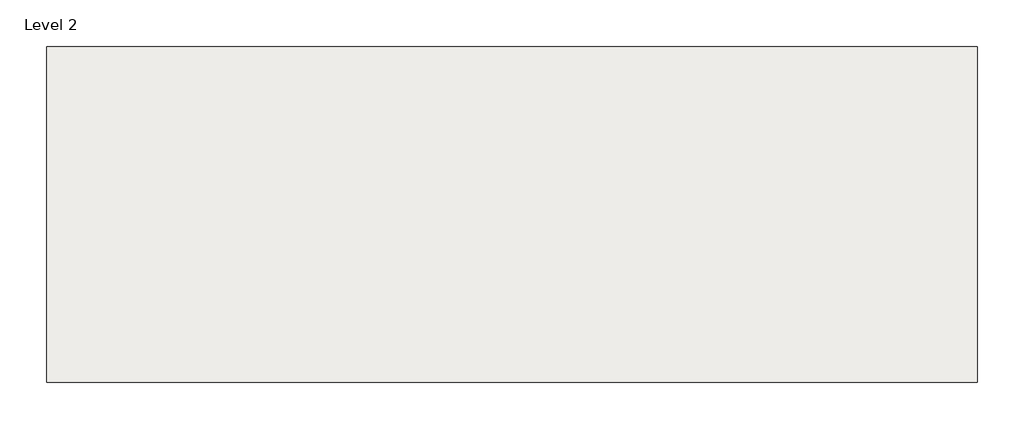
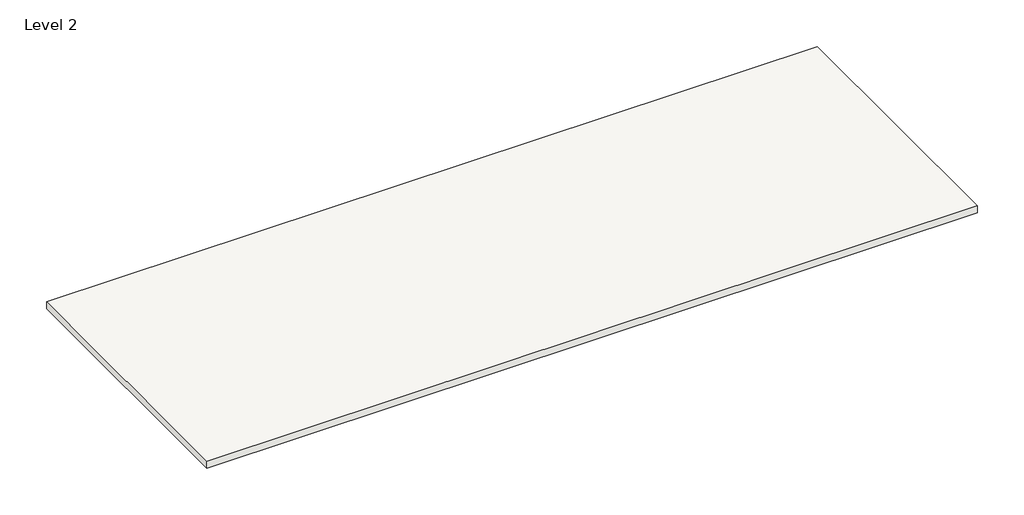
# One storey: 15 light fixtures, 1 covering.
"""IFC4 building model written with IfcOpenShell, lengths in millimetres."""

from ifc_helpers import new_model, si_unit, origin, place, context, project, spatial, faceted_brep, transform, mapped, element, save
from components import light_fixture_525445fe, light_fixture_11667dc2, light_fixture_d758fedb, light_fixture_8b8c7958, light_fixture_a5de5f7d, light_fixture_a56094d9

model = new_model("IFC4")

# Units and contexts
model_context = context("Model", 3, world=origin())
ifc_project = project(units=[si_unit("LENGTHUNIT", "METRE", prefix="MILLI")], contexts=[model_context])

# Site, building, storey
site = spatial("IfcSite", under=ifc_project)
building = spatial("IfcBuilding", under=site)
storey = spatial("IfcBuildingStorey", under=building, Name="Level 2", Elevation=2540.0)

# Covering
placement = place(None, origin())
element("IfcCovering", 1, ObjectType="Ceiling", at=placement, inside=storey, context=model_context, shape_type="Brep", body=[
    faceted_brep([(5009.1339559, 3052.7882687, 2667.0), (-8097.2660441, 3052.7882687, 2667.0), (-8097.2660441, -1671.6117313, 2667.0), (5009.1339559, -1671.6117313, 2667.0), (-8097.2660441, 3052.7882687, 2540.0), (5009.1339559, 3052.7882687, 2540.0), (5009.1339559, -1671.6117313, 2540.0), (-8097.2660441, -1671.6117313, 2540.0), (-7560.8398722, 2013.273425, 2540.0), (-6347.6922159, 2013.273425, 2540.0), (-6347.6922159, 2314.3031125, 2540.0), (-7560.8398722, 2314.3031125, 2540.0), (-7255.7422159, 338.3120969, 2540.0), (-6652.7898722, 338.3120969, 2540.0), (-6652.7898722, 941.2644406, 2540.0), (-7255.7422159, 941.2644406, 2540.0), (-7560.8398722, -1185.6879031, 2540.0), (-6347.6922159, -1185.6879031, 2540.0), (-6347.6922159, -582.7355594, 2540.0), (-7560.8398722, -582.7355594, 2540.0), (-5097.0398722, 2013.273425, 2540.0), (-3883.8922159, 2013.273425, 2540.0), (-3883.8922159, 2314.3031125, 2540.0), (-5097.0398722, 2314.3031125, 2540.0), (-4791.9422159, 338.3120969, 2540.0), (-4188.9898722, 338.3120969, 2540.0), (-4188.9898722, 941.2644406, 2540.0), (-4791.9422159, 941.2644406, 2540.0), (-5097.0398722, -1185.6879031, 2540.0), (-3883.8922159, -1185.6879031, 2540.0), (-3883.8922159, -582.7355594, 2540.0), (-5097.0398722, -582.7355594, 2540.0), (-2658.6398722, 2013.273425, 2540.0), (-1445.4922159, 2013.273425, 2540.0), (-1445.4922159, 2314.3031125, 2540.0), (-2658.6398722, 2314.3031125, 2540.0), (-2353.5422159, 338.3120969, 2540.0), (-1750.5898722, 338.3120969, 2540.0), (-1750.5898722, 941.2644406, 2540.0), (-2353.5422159, 941.2644406, 2540.0), (-2658.6398722, -1185.6879031, 2540.0), (-1445.4922159, -1185.6879031, 2540.0), (-1445.4922159, -582.7355594, 2540.0), (-2658.6398722, -582.7355594, 2540.0), (-220.2398722, 2013.273425, 2540.0), (992.9077841, 2013.273425, 2540.0), (992.9077841, 2314.3031125, 2540.0), (-220.2398722, 2314.3031125, 2540.0), (2522.9601278, 2013.273425, 2540.0), (3736.1077841, 2013.273425, 2540.0), (3736.1077841, 2314.3031125, 2540.0), (2522.9601278, 2314.3031125, 2540.0), (84.8577841, 338.3120969, 2540.0), (687.8101278, 338.3120969, 2540.0), (687.8101278, 941.2644406, 2540.0), (84.8577841, 941.2644406, 2540.0), (2828.0577841, 338.3120969, 2540.0), (3431.0101278, 338.3120969, 2540.0), (3431.0101278, 941.2644406, 2540.0), (2828.0577841, 941.2644406, 2540.0), (-220.2398722, -1185.6879031, 2540.0), (992.9077841, -1185.6879031, 2540.0), (992.9077841, -582.7355594, 2540.0), (-220.2398722, -582.7355594, 2540.0), (2522.9601278, -1185.6879031, 2540.0), (3736.1077841, -1185.6879031, 2540.0), (3736.1077841, -582.7355594, 2540.0), (2522.9601278, -582.7355594, 2540.0), (-6347.6922159, 2013.273425, 2611.3382813), (-7560.8398722, 2013.273425, 2611.3382813), (-7560.8398722, 2314.3031125, 2611.3382813), (-6347.6922159, 2314.3031125, 2611.3382813), (-6652.7898722, 338.3120969, 2611.3382813), (-7255.7422159, 338.3120969, 2611.3382813), (-7255.7422159, 941.2644406, 2611.3382813), (-6652.7898722, 941.2644406, 2611.3382813), (-6347.6922159, -1185.6879031, 2611.3382813), (-7560.8398722, -1185.6879031, 2611.3382813), (-7560.8398722, -582.7355594, 2611.3382813), (-6347.6922159, -582.7355594, 2611.3382813), (-3883.8922159, 2013.273425, 2611.3382813), (-5097.0398722, 2013.273425, 2611.3382813), (-5097.0398722, 2314.3031125, 2611.3382813), (-3883.8922159, 2314.3031125, 2611.3382813), (-4188.9898722, 338.3120969, 2611.3382813), (-4791.9422159, 338.3120969, 2611.3382813), (-4791.9422159, 941.2644406, 2611.3382813), (-4188.9898722, 941.2644406, 2611.3382813), (-3883.8922159, -1185.6879031, 2611.3382813), (-5097.0398722, -1185.6879031, 2611.3382813), (-5097.0398722, -582.7355594, 2611.3382813), (-3883.8922159, -582.7355594, 2611.3382813), (-1445.4922159, 2013.273425, 2611.3382813), (-2658.6398722, 2013.273425, 2611.3382813), (-2658.6398722, 2314.3031125, 2611.3382813), (-1445.4922159, 2314.3031125, 2611.3382813), (-1750.5898722, 338.3120969, 2611.3382813), (-2353.5422159, 338.3120969, 2611.3382813), (-2353.5422159, 941.2644406, 2611.3382813), (-1750.5898722, 941.2644406, 2611.3382813), (-1445.4922159, -1185.6879031, 2611.3382813), (-2658.6398722, -1185.6879031, 2611.3382813), (-2658.6398722, -582.7355594, 2611.3382813), (-1445.4922159, -582.7355594, 2611.3382813), (992.9077841, 2013.273425, 2611.3382813), (-220.2398722, 2013.273425, 2611.3382813), (-220.2398722, 2314.3031125, 2611.3382813), (992.9077841, 2314.3031125, 2611.3382813), (3736.1077841, 2013.273425, 2611.3382813), (2522.9601278, 2013.273425, 2611.3382813), (2522.9601278, 2314.3031125, 2611.3382813), (3736.1077841, 2314.3031125, 2611.3382813), (687.8101278, 338.3120969, 2611.3382813), (84.8577841, 338.3120969, 2611.3382813), (84.8577841, 941.2644406, 2611.3382813), (687.8101278, 941.2644406, 2611.3382813), (3431.0101278, 338.3120969, 2611.3382813), (2828.0577841, 338.3120969, 2611.3382813), (2828.0577841, 941.2644406, 2611.3382813), (3431.0101278, 941.2644406, 2611.3382813), (992.9077841, -1185.6879031, 2611.3382813), (-220.2398722, -1185.6879031, 2611.3382813), (-220.2398722, -582.7355594, 2611.3382813), (992.9077841, -582.7355594, 2611.3382813), (3736.1077841, -1185.6879031, 2611.3382813), (2522.9601278, -1185.6879031, 2611.3382813), (2522.9601278, -582.7355594, 2611.3382813), (3736.1077841, -582.7355594, 2611.3382813)], [[[0, 1, 2, 3]], [[4, 5, 6, 7], [8, 9, 10, 11], [12, 13, 14, 15], [16, 17, 18, 19], [20, 21, 22, 23], [24, 25, 26, 27], [28, 29, 30, 31], [32, 33, 34, 35], [36, 37, 38, 39], [40, 41, 42, 43], [44, 45, 46, 47], [48, 49, 50, 51], [52, 53, 54, 55], [56, 57, 58, 59], [60, 61, 62, 63], [64, 65, 66, 67]], [[1, 0, 5, 4]], [[2, 1, 4, 7]], [[3, 2, 7, 6]], [[0, 3, 6, 5]], [[68, 69, 70, 71]], [[69, 68, 9, 8]], [[70, 69, 8, 11]], [[71, 70, 11, 10]], [[68, 71, 10, 9]], [[72, 73, 74, 75]], [[73, 72, 13, 12]], [[74, 73, 12, 15]], [[75, 74, 15, 14]], [[72, 75, 14, 13]], [[76, 77, 78, 79]], [[77, 76, 17, 16]], [[78, 77, 16, 19]], [[79, 78, 19, 18]], [[76, 79, 18, 17]], [[80, 81, 82, 83]], [[81, 80, 21, 20]], [[82, 81, 20, 23]], [[83, 82, 23, 22]], [[80, 83, 22, 21]], [[84, 85, 86, 87]], [[85, 84, 25, 24]], [[86, 85, 24, 27]], [[87, 86, 27, 26]], [[84, 87, 26, 25]], [[88, 89, 90, 91]], [[89, 88, 29, 28]], [[90, 89, 28, 31]], [[91, 90, 31, 30]], [[88, 91, 30, 29]], [[92, 93, 94, 95]], [[93, 92, 33, 32]], [[94, 93, 32, 35]], [[95, 94, 35, 34]], [[92, 95, 34, 33]], [[96, 97, 98, 99]], [[97, 96, 37, 36]], [[98, 97, 36, 39]], [[99, 98, 39, 38]], [[96, 99, 38, 37]], [[100, 101, 102, 103]], [[101, 100, 41, 40]], [[102, 101, 40, 43]], [[103, 102, 43, 42]], [[100, 103, 42, 41]], [[104, 105, 106, 107]], [[105, 104, 45, 44]], [[106, 105, 44, 47]], [[107, 106, 47, 46]], [[104, 107, 46, 45]], [[108, 109, 110, 111]], [[109, 108, 49, 48]], [[110, 109, 48, 51]], [[111, 110, 51, 50]], [[108, 111, 50, 49]], [[112, 113, 114, 115]], [[113, 112, 53, 52]], [[114, 113, 52, 55]], [[115, 114, 55, 54]], [[112, 115, 54, 53]], [[116, 117, 118, 119]], [[117, 116, 57, 56]], [[118, 117, 56, 59]], [[119, 118, 59, 58]], [[116, 119, 58, 57]], [[120, 121, 122, 123]], [[121, 120, 61, 60]], [[122, 121, 60, 63]], [[123, 122, 63, 62]], [[120, 123, 62, 61]], [[124, 125, 126, 127]], [[125, 124, 65, 64]], [[126, 125, 64, 67]], [[127, 126, 67, 66]], [[124, 127, 66, 65]]]),
])

# Light fixtures
light_fixture_shape = light_fixture_525445fe(model_context)
light_fixture_2_shape = light_fixture_11667dc2(model_context)
element("IfcLightFixture", 2, ObjectType="Linmore_LED-LifeTime_Series-Troffer : LT10T-A2-ADJ-16-14", at=placement, inside=storey, context=model_context, shape_type="MappedRepresentation", body=[
    mapped(light_fixture_shape, transform((-6954.2660441, 2167.3320973, 2540.0), x_axis=(1.0, 0.0, 0.0), y_axis=(0.0, -1.0, 0.0), z_axis=(0.0, 0.0, -1.0))),
    mapped(light_fixture_2_shape, transform((-6954.2660441, 2167.3320973, 2540.0), x_axis=(1.0, 0.0, 0.0), y_axis=(0.0, -1.0, 0.0), z_axis=(0.0, 0.0, -1.0))),
])
light_fixture_3_shape = light_fixture_d758fedb(model_context)
light_fixture_4_shape = light_fixture_8b8c7958(model_context)
element("IfcLightFixture", 3, ObjectType="Linmore_LED-LifeTime_Series-Troffer : LT10T-A2-ADJ-16-22", at=placement, inside=storey, context=model_context, shape_type="MappedRepresentation", body=[
    mapped(light_fixture_3_shape, transform((-6954.2660441, 643.3320973, 2540.0), x_axis=(1.0, 0.0, 0.0), y_axis=(0.0, -1.0, 0.0), z_axis=(0.0, 0.0, -1.0))),
    mapped(light_fixture_4_shape, transform((-6954.2660441, 643.3320973, 2540.0), x_axis=(1.0, 0.0, 0.0), y_axis=(0.0, -1.0, 0.0), z_axis=(0.0, 0.0, -1.0))),
])
light_fixture_5_shape = light_fixture_a5de5f7d(model_context)
light_fixture_6_shape = light_fixture_a56094d9(model_context)
element("IfcLightFixture", 4, ObjectType="Linmore_LED-LifeTime_Series-Troffer : LT10T-A2-ADJ-16-24", at=placement, inside=storey, context=model_context, shape_type="MappedRepresentation", body=[
    mapped(light_fixture_5_shape, transform((-6954.2660441, -880.6679027, 2540.0), x_axis=(1.0, 0.0, 0.0), y_axis=(0.0, -1.0, 0.0), z_axis=(0.0, 0.0, -1.0))),
    mapped(light_fixture_6_shape, transform((-6954.2660441, -880.6679027, 2540.0), x_axis=(1.0, 0.0, 0.0), y_axis=(0.0, -1.0, 0.0), z_axis=(0.0, 0.0, -1.0))),
])
element("IfcLightFixture", 5, ObjectType="Linmore_LED-LifeTime_Series-Troffer : LT10T-A2-ADJ-20-14", at=placement, inside=storey, context=model_context, shape_type="MappedRepresentation", body=[
    mapped(light_fixture_shape, transform((-4490.4660441, 2167.3320973, 2540.0), x_axis=(1.0, 0.0, 0.0), y_axis=(0.0, -1.0, 0.0), z_axis=(0.0, 0.0, -1.0))),
    mapped(light_fixture_2_shape, transform((-4490.4660441, 2167.3320973, 2540.0), x_axis=(1.0, 0.0, 0.0), y_axis=(0.0, -1.0, 0.0), z_axis=(0.0, 0.0, -1.0))),
])
element("IfcLightFixture", 6, ObjectType="Linmore_LED-LifeTime_Series-Troffer : LT10T-A2-ADJ-26-14", at=placement, inside=storey, context=model_context, shape_type="MappedRepresentation", body=[
    mapped(light_fixture_shape, transform((-2052.0660441, 2167.3320973, 2540.0), x_axis=(1.0, 0.0, 0.0), y_axis=(0.0, -1.0, 0.0), z_axis=(0.0, 0.0, -1.0))),
    mapped(light_fixture_2_shape, transform((-2052.0660441, 2167.3320973, 2540.0), x_axis=(1.0, 0.0, 0.0), y_axis=(0.0, -1.0, 0.0), z_axis=(0.0, 0.0, -1.0))),
])
element("IfcLightFixture", 7, ObjectType="Linmore_LED-LifeTime_Series-Troffer : LT10T-A2-ADJ-34-14", at=placement, inside=storey, context=model_context, shape_type="MappedRepresentation", body=[
    mapped(light_fixture_shape, transform((386.3339559, 2167.3320973, 2540.0), x_axis=(1.0, 0.0, 0.0), y_axis=(0.0, -1.0, 0.0), z_axis=(0.0, 0.0, -1.0))),
    mapped(light_fixture_2_shape, transform((386.3339559, 2167.3320973, 2540.0), x_axis=(1.0, 0.0, 0.0), y_axis=(0.0, -1.0, 0.0), z_axis=(0.0, 0.0, -1.0))),
])
element("IfcLightFixture", 8, ObjectType="Linmore_LED-LifeTime_Series-Troffer : LT10T-A2-ADJ-40-14", at=placement, inside=storey, context=model_context, shape_type="MappedRepresentation", body=[
    mapped(light_fixture_shape, transform((3129.5339559, 2167.3320973, 2540.0), x_axis=(1.0, 0.0, 0.0), y_axis=(0.0, -1.0, 0.0), z_axis=(0.0, 0.0, -1.0))),
    mapped(light_fixture_2_shape, transform((3129.5339559, 2167.3320973, 2540.0), x_axis=(1.0, 0.0, 0.0), y_axis=(0.0, -1.0, 0.0), z_axis=(0.0, 0.0, -1.0))),
])
element("IfcLightFixture", 9, ObjectType="Linmore_LED-LifeTime_Series-Troffer : LT10T-A2-ADJ-20-22", at=placement, inside=storey, context=model_context, shape_type="MappedRepresentation", body=[
    mapped(light_fixture_3_shape, transform((-4490.4660441, 643.3320973, 2540.0), x_axis=(1.0, 0.0, 0.0), y_axis=(0.0, -1.0, 0.0), z_axis=(0.0, 0.0, -1.0))),
    mapped(light_fixture_4_shape, transform((-4490.4660441, 643.3320973, 2540.0), x_axis=(1.0, 0.0, 0.0), y_axis=(0.0, -1.0, 0.0), z_axis=(0.0, 0.0, -1.0))),
])
element("IfcLightFixture", 10, ObjectType="Linmore_LED-LifeTime_Series-Troffer : LT10T-A2-ADJ-24-22", at=placement, inside=storey, context=model_context, shape_type="MappedRepresentation", body=[
    mapped(light_fixture_3_shape, transform((-2052.0660441, 643.3320973, 2540.0), x_axis=(1.0, 0.0, 0.0), y_axis=(0.0, -1.0, 0.0), z_axis=(0.0, 0.0, -1.0))),
    mapped(light_fixture_4_shape, transform((-2052.0660441, 643.3320973, 2540.0), x_axis=(1.0, 0.0, 0.0), y_axis=(0.0, -1.0, 0.0), z_axis=(0.0, 0.0, -1.0))),
])
element("IfcLightFixture", 11, ObjectType="Linmore_LED-LifeTime_Series-Troffer : LT10T-A2-ADJ-27-22", at=placement, inside=storey, context=model_context, shape_type="MappedRepresentation", body=[
    mapped(light_fixture_3_shape, transform((386.3339559, 643.3320973, 2540.0), x_axis=(1.0, 0.0, 0.0), y_axis=(0.0, -1.0, 0.0), z_axis=(0.0, 0.0, -1.0))),
    mapped(light_fixture_4_shape, transform((386.3339559, 643.3320973, 2540.0), x_axis=(1.0, 0.0, 0.0), y_axis=(0.0, -1.0, 0.0), z_axis=(0.0, 0.0, -1.0))),
])
element("IfcLightFixture", 12, ObjectType="Linmore_LED-LifeTime_Series-Troffer : LT10T-A2-ADJ-34-22", at=placement, inside=storey, context=model_context, shape_type="MappedRepresentation", body=[
    mapped(light_fixture_3_shape, transform((3129.5339559, 643.3320973, 2540.0), x_axis=(1.0, 0.0, 0.0), y_axis=(0.0, -1.0, 0.0), z_axis=(0.0, 0.0, -1.0))),
    mapped(light_fixture_4_shape, transform((3129.5339559, 643.3320973, 2540.0), x_axis=(1.0, 0.0, 0.0), y_axis=(0.0, -1.0, 0.0), z_axis=(0.0, 0.0, -1.0))),
])
element("IfcLightFixture", 13, ObjectType="Linmore_LED-LifeTime_Series-Troffer : LT10T-A2-ADJ-20-24", at=placement, inside=storey, context=model_context, shape_type="MappedRepresentation", body=[
    mapped(light_fixture_5_shape, transform((-4490.4660441, -880.6679027, 2540.0), x_axis=(1.0, 0.0, 0.0), y_axis=(0.0, -1.0, 0.0), z_axis=(0.0, 0.0, -1.0))),
    mapped(light_fixture_6_shape, transform((-4490.4660441, -880.6679027, 2540.0), x_axis=(1.0, 0.0, 0.0), y_axis=(0.0, -1.0, 0.0), z_axis=(0.0, 0.0, -1.0))),
])
element("IfcLightFixture", 14, ObjectType="Linmore_LED-LifeTime_Series-Troffer : LT10T-A2-ADJ-26-24", at=placement, inside=storey, context=model_context, shape_type="MappedRepresentation", body=[
    mapped(light_fixture_5_shape, transform((-2052.0660441, -880.6679027, 2540.0), x_axis=(1.0, 0.0, 0.0), y_axis=(0.0, -1.0, 0.0), z_axis=(0.0, 0.0, -1.0))),
    mapped(light_fixture_6_shape, transform((-2052.0660441, -880.6679027, 2540.0), x_axis=(1.0, 0.0, 0.0), y_axis=(0.0, -1.0, 0.0), z_axis=(0.0, 0.0, -1.0))),
])
element("IfcLightFixture", 15, ObjectType="Linmore_LED-LifeTime_Series-Troffer : LT10T-A2-ADJ-34-24", at=placement, inside=storey, context=model_context, shape_type="MappedRepresentation", body=[
    mapped(light_fixture_5_shape, transform((386.3339559, -880.6679027, 2540.0), x_axis=(1.0, 0.0, 0.0), y_axis=(0.0, -1.0, 0.0), z_axis=(0.0, 0.0, -1.0))),
    mapped(light_fixture_6_shape, transform((386.3339559, -880.6679027, 2540.0), x_axis=(1.0, 0.0, 0.0), y_axis=(0.0, -1.0, 0.0), z_axis=(0.0, 0.0, -1.0))),
])
element("IfcLightFixture", 16, ObjectType="Linmore_LED-LifeTime_Series-Troffer : LT10T-A2-ADJ-40-24", at=placement, inside=storey, context=model_context, shape_type="MappedRepresentation", body=[
    mapped(light_fixture_5_shape, transform((3129.5339559, -880.6679027, 2540.0), x_axis=(1.0, 0.0, 0.0), y_axis=(0.0, -1.0, 0.0), z_axis=(0.0, 0.0, -1.0))),
    mapped(light_fixture_6_shape, transform((3129.5339559, -880.6679027, 2540.0), x_axis=(1.0, 0.0, 0.0), y_axis=(0.0, -1.0, 0.0), z_axis=(0.0, 0.0, -1.0))),
])

save(model, "model.ifc")
